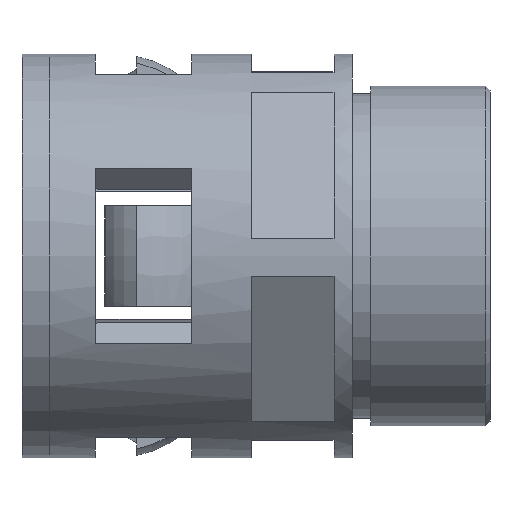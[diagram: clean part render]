
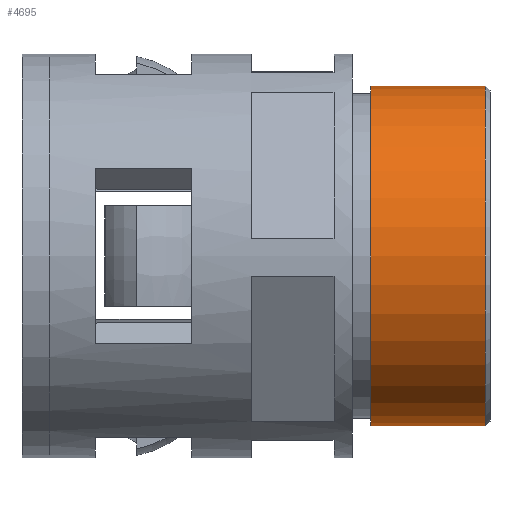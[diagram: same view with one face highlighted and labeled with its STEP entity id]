
A CAD part, front view. The second image highlights one B-rep face of the part: STEP entity #4695.
In plain terms, the highlighted cylindrical face has radius 18.5 mm (diameter 37 mm), a partial arc.
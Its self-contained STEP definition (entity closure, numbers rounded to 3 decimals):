
#49 = AXIS2_PLACEMENT_3D ( 'NONE', #575, #5322, #3639 ) ;
#52 = CIRCLE ( 'NONE', #3778, 18.5 ) ;
#71 = VECTOR ( 'NONE', #953, 1000. ) ;
#126 = CIRCLE ( 'NONE', #49, 18.5 ) ;
#373 = CARTESIAN_POINT ( 'NONE',  ( 14.5, 0., -18.5 ) ) ;
#575 = CARTESIAN_POINT ( 'NONE',  ( 2., 0., 0. ) ) ;
#721 = EDGE_CURVE ( 'NONE', #4473, #1024, #3137, .T. ) ;
#953 = DIRECTION ( 'NONE',  ( -1., 0., 0. ) ) ;
#1024 = VERTEX_POINT ( 'NONE', #1270 ) ;
#1270 = CARTESIAN_POINT ( 'NONE',  ( 2., 0., -18.5 ) ) ;
#1311 = VERTEX_POINT ( 'NONE', #1962 ) ;
#1334 = VECTOR ( 'NONE', #2768, 1000. ) ;
#1771 = EDGE_CURVE ( 'NONE', #1311, #1024, #126, .T. ) ;
#1776 = CYLINDRICAL_SURFACE ( 'NONE', #3086, 18.5 ) ;
#1962 = CARTESIAN_POINT ( 'NONE',  ( 2., 0., 18.5 ) ) ;
#2360 = CARTESIAN_POINT ( 'NONE',  ( 15., 0., 0. ) ) ;
#2378 = LINE ( 'NONE', #4800, #71 ) ;
#2647 = CARTESIAN_POINT ( 'NONE',  ( 15., 0., -18.5 ) ) ;
#2756 = DIRECTION ( 'NONE',  ( -1., 0., 0. ) ) ;
#2768 = DIRECTION ( 'NONE',  ( -1., 0., 0. ) ) ;
#2795 = EDGE_CURVE ( 'NONE', #4473, #3445, #52, .T. ) ;
#2979 = ORIENTED_EDGE ( 'NONE', *, *, #4620, .T. ) ;
#3086 = AXIS2_PLACEMENT_3D ( 'NONE', #2360, #2756, #3625 ) ;
#3134 = ORIENTED_EDGE ( 'NONE', *, *, #1771, .T. ) ;
#3137 = LINE ( 'NONE', #2647, #1334 ) ;
#3351 = EDGE_LOOP ( 'NONE', ( #5232, #4094, #2979, #3134 ) ) ;
#3445 = VERTEX_POINT ( 'NONE', #3654 ) ;
#3625 = DIRECTION ( 'NONE',  ( 0., 0., 1. ) ) ;
#3639 = DIRECTION ( 'NONE',  ( 0., 0., -1. ) ) ;
#3654 = CARTESIAN_POINT ( 'NONE',  ( 14.5, 0., 18.5 ) ) ;
#3778 = AXIS2_PLACEMENT_3D ( 'NONE', #4246, #4683, #5161 ) ;
#4094 = ORIENTED_EDGE ( 'NONE', *, *, #2795, .T. ) ;
#4189 = FACE_OUTER_BOUND ( 'NONE', #3351, .T. ) ;
#4246 = CARTESIAN_POINT ( 'NONE',  ( 14.5, 0., 0. ) ) ;
#4473 = VERTEX_POINT ( 'NONE', #373 ) ;
#4620 = EDGE_CURVE ( 'NONE', #3445, #1311, #2378, .T. ) ;
#4683 = DIRECTION ( 'NONE',  ( -1., 0., 0. ) ) ;
#4695 = ADVANCED_FACE ( 'NONE', ( #4189 ), #1776, .T. ) ;
#4800 = CARTESIAN_POINT ( 'NONE',  ( 15., 0., 18.5 ) ) ;
#5161 = DIRECTION ( 'NONE',  ( 0., 0., -1. ) ) ;
#5232 = ORIENTED_EDGE ( 'NONE', *, *, #721, .F. ) ;
#5322 = DIRECTION ( 'NONE',  ( 1., 0., 0. ) ) ;
